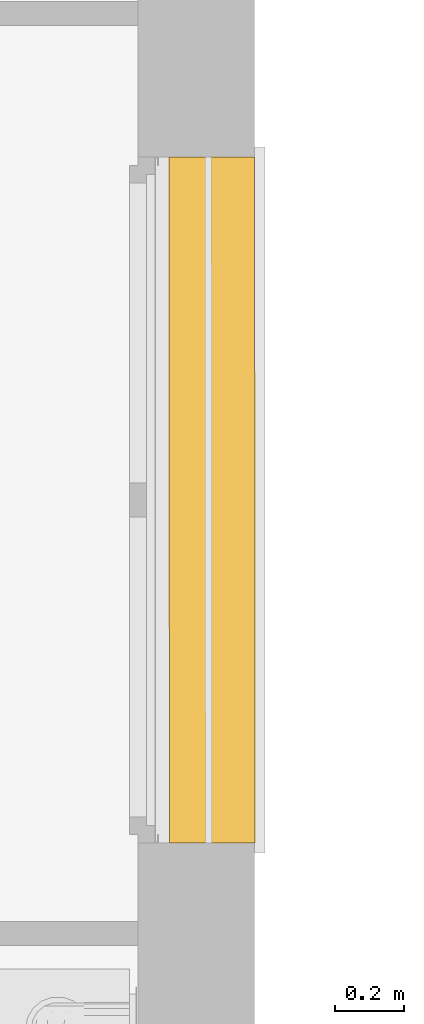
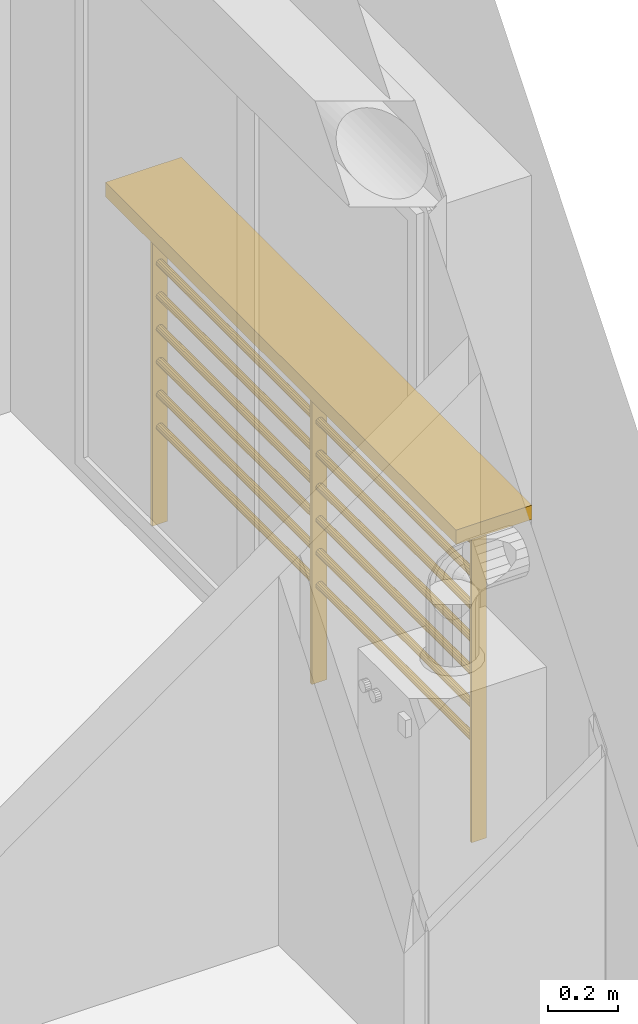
# One storey, part 94 of 164: 1 railing.
"""IFC2X3 building model written with IfcOpenShell, lengths in millimetres."""

from ifc_helpers import new_model, entity, si_unit, converted_unit, derived_unit, money_unit, direction, frame, origin_with_axes, place, context, subcontext, project, spatial, faceted_brep, source, transform, mapped, type_object, element, save


model = new_model("IFC2X3")

# Units and contexts
model_context = context("Model", 3, precision=0.01, world=origin_with_axes(), true_north=direction((0.0, 1.0)))
body_context = subcontext(model_context, "Body", "Model", "MODEL_VIEW")
ifc_project = project(units=[si_unit("LENGTHUNIT", "METRE", prefix="MILLI"), si_unit("AREAUNIT", "SQUARE_METRE"), si_unit("VOLUMEUNIT", "CUBIC_METRE"), converted_unit("PLANEANGLEUNIT", "DEGREE", entity("IfcPlaneAngleMeasure", 0.0174532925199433), si_unit("PLANEANGLEUNIT", "RADIAN"), dimensions=[0, 0, 0, 0, 0, 0, 0]), money_unit("USD"), converted_unit("TIMEUNIT", "Year", entity("IfcTimeMeasure", 31557600.0), si_unit("TIMEUNIT", "SECOND"), dimensions=[0, 0, 1, 0, 0, 0, 0]), si_unit("MASSUNIT", "GRAM", prefix="KILO"), si_unit("THERMODYNAMICTEMPERATUREUNIT", "DEGREE_CELSIUS"), si_unit("LUMINOUSINTENSITYUNIT", "LUMEN"), si_unit("ENERGYUNIT", "JOULE", prefix="MEGA"), derived_unit("THERMALCONDUCTANCEUNIT", [(si_unit("POWERUNIT", "WATT"), 1), (si_unit("LENGTHUNIT", "METRE"), -1), (si_unit("THERMODYNAMICTEMPERATUREUNIT", "KELVIN"), -1)]), derived_unit("SPECIFICHEATCAPACITYUNIT", [(si_unit("ENERGYUNIT", "JOULE"), 1), (si_unit("MASSUNIT", "GRAM", prefix="KILO"), -1), (si_unit("THERMODYNAMICTEMPERATUREUNIT", "KELVIN"), -1)]), derived_unit("MASSDENSITYUNIT", [(si_unit("MASSUNIT", "GRAM", prefix="KILO"), 1), (si_unit("VOLUMEUNIT", "CUBIC_METRE"), -1)])], contexts=[model_context])

# Site, building, storey
site_placement = place(None, origin_with_axes())
site = spatial("IfcSite", under=ifc_project, at=site_placement, Name="Site", CompositionType="ELEMENT")
building_placement = place(site_placement, origin_with_axes())
building = spatial("IfcBuilding", under=site, at=building_placement, Name="Bâtiment", CompositionType="ELEMENT")
storey_placement = place(building_placement, frame((0.0, 0.0, 5750.0), z_axis=(0.0, 0.0, 1.0), x_axis=(1.0, 0.0, 0.0)))
storey = spatial("IfcBuildingStorey", under=building, at=storey_placement, Name="Etage1", CompositionType="ELEMENT", Elevation=5750.0)

# Railing
railing_type = type_object("IfcRailingType", Name="Cadre avec câble 01 20", PredefinedType="NOTDEFINED")
shared_shape = source(origin_with_axes(), body_context, "Body", "Brep", [
    faceted_brep([(0.0, 125.0, 950.0), (0.0, 125.0, 1000.0), (0.0, -125.0, 1000.0), (0.0, -125.0, 950.0), (-1999.999999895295, 125.0, 950.0), (-1999.999999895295, 125.0, 1000.0), (-1999.999999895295, -125.0, 1000.0), (-1999.999999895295, -125.0, 950.0)], [[[0, 1, 2, 3]], [[4, 5, 1, 0]], [[1, 5, 6, 2]], [[3, 2, 6, 7]], [[0, 3, 7, 4]], [[7, 6, 5, 4]]]),
    faceted_brep([(-84.99999999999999, -25.0, -176.0), (-84.99999999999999, -25.0, 950.0), (-95.0, -25.0, 950.0), (-95.0, -25.0, -176.0), (-84.99999999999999, 25.0, -176.0), (-84.99999999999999, 25.0, 950.0), (-95.0, 25.0, 950.0), (-95.0, 25.0, -176.0)], [[[0, 1, 2, 3]], [[4, 5, 1, 0]], [[1, 5, 6, 2]], [[3, 2, 6, 7]], [[0, 3, 7, 4]], [[7, 6, 5, 4]]]),
    faceted_brep([(-994.9999999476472, -25.0, -176.0), (-994.9999999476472, -25.0, 950.0), (-1004.999999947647, -25.0, 950.0), (-1004.999999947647, -25.0, -176.0), (-994.9999999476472, 25.0, -176.0), (-994.9999999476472, 25.0, 950.0), (-1004.999999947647, 25.0, 950.0), (-1004.999999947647, 25.0, -176.0)], [[[0, 1, 2, 3]], [[4, 5, 1, 0]], [[1, 5, 6, 2]], [[3, 2, 6, 7]], [[0, 3, 7, 4]], [[7, 6, 5, 4]]]),
    faceted_brep([(-1904.999999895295, -25.0, -176.0), (-1904.999999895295, -25.0, 950.0), (-1914.999999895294, -25.0, 950.0), (-1914.999999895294, -25.0, -176.0), (-1904.999999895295, 25.0, -176.0), (-1904.999999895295, 25.0, 950.0), (-1914.999999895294, 25.0, 950.0), (-1914.999999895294, 25.0, -176.0)], [[[0, 1, 2, 3]], [[4, 5, 1, 0]], [[1, 5, 6, 2]], [[3, 2, 6, 7]], [[0, 3, 7, 4]], [[7, 6, 5, 4]]]),
    faceted_brep([(-994.9999999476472, 10.82531754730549, 168.7500000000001), (-95.0, 10.82531754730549, 168.75), (-95.0, 12.5, 162.5), (-994.9999999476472, 12.5, 162.5000000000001), (-994.9999999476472, 6.250000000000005, 173.3253175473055), (-95.0, 6.250000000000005, 173.3253175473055), (-95.0, 0.0, 175.0), (-95.0, -6.249999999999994, 173.3253175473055), (-95.0, -10.82531754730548, 168.75), (-95.0, -12.5, 162.5), (-95.0, -10.82531754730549, 156.25), (-95.0, -6.250000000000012, 151.6746824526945), (-95.0, 0.0, 150.0), (-95.0, 6.249999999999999, 151.6746824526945), (-95.0, 10.82531754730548, 156.25), (-994.9999999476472, 10.82531754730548, 156.2500000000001), (-994.9999999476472, 6.249999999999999, 151.6746824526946), (-994.9999999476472, 0.0, 150.0000000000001), (-994.9999999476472, -6.250000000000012, 151.6746824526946), (-994.9999999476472, -10.82531754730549, 156.2500000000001), (-994.9999999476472, -12.5, 162.5000000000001), (-994.9999999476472, -10.82531754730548, 168.7500000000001), (-994.9999999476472, -6.249999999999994, 173.3253175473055), (-994.9999999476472, 0.0, 175.0000000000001)], [[[0, 1, 2, 3]], [[4, 5, 1, 0]], [[1, 5, 6, 7, 8, 9, 10, 11, 12, 13, 14, 2]], [[3, 2, 14, 15]], [[15, 16, 17, 18, 19, 20, 21, 22, 23, 4, 0, 3]], [[23, 6, 5, 4]], [[22, 7, 6, 23]], [[21, 8, 7, 22]], [[20, 9, 8, 21]], [[19, 10, 9, 20]], [[18, 11, 10, 19]], [[17, 12, 11, 18]], [[16, 13, 12, 17]], [[15, 14, 13, 16]]]),
    faceted_brep([(-1004.999999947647, 10.82531754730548, 156.2500000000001), (-1904.999999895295, 10.82531754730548, 156.2500000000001), (-1904.999999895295, 12.5, 162.5000000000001), (-1004.999999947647, 12.5, 162.5000000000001), (-1004.999999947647, 6.249999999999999, 151.6746824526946), (-1904.999999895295, 6.249999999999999, 151.6746824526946), (-1904.999999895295, 0.0, 150.0000000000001), (-1904.999999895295, -6.250000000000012, 151.6746824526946), (-1904.999999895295, -10.82531754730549, 156.2500000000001), (-1904.999999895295, -12.5, 162.5000000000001), (-1904.999999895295, -10.82531754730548, 168.7500000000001), (-1904.999999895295, -6.249999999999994, 173.3253175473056), (-1904.999999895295, 0.0, 175.0000000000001), (-1904.999999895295, 6.250000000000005, 173.3253175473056), (-1904.999999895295, 10.82531754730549, 168.7500000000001), (-1004.999999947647, 10.82531754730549, 168.7500000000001), (-1004.999999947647, 6.250000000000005, 173.3253175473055), (-1004.999999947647, 0.0, 175.0000000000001), (-1004.999999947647, -6.249999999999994, 173.3253175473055), (-1004.999999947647, -10.82531754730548, 168.7500000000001), (-1004.999999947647, -12.5, 162.5000000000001), (-1004.999999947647, -10.82531754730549, 156.2500000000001), (-1004.999999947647, -6.250000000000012, 151.6746824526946), (-1004.999999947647, 0.0, 150.0000000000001)], [[[0, 1, 2, 3]], [[4, 5, 1, 0]], [[1, 5, 6, 7, 8, 9, 10, 11, 12, 13, 14, 2]], [[3, 2, 14, 15]], [[15, 16, 17, 18, 19, 20, 21, 22, 23, 4, 0, 3]], [[23, 6, 5, 4]], [[22, 7, 6, 23]], [[21, 8, 7, 22]], [[20, 9, 8, 21]], [[19, 10, 9, 20]], [[18, 11, 10, 19]], [[17, 12, 11, 18]], [[16, 13, 12, 17]], [[15, 14, 13, 16]]]),
    faceted_brep([(-994.9999999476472, 10.82531754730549, 283.0357142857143), (-95.0, 10.82531754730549, 283.0357142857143), (-95.0, 12.5, 276.7857142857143), (-994.9999999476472, 12.5, 276.7857142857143), (-994.9999999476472, 6.250000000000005, 287.6110318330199), (-95.0, 6.250000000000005, 287.6110318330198), (-95.0, 0.0, 289.2857142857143), (-95.0, -6.249999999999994, 287.6110318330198), (-95.0, -10.82531754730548, 283.0357142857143), (-95.0, -12.5, 276.7857142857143), (-95.0, -10.82531754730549, 270.5357142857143), (-95.0, -6.250000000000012, 265.9603967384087), (-95.0, 0.0, 264.2857142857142), (-95.0, 6.249999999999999, 265.9603967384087), (-95.0, 10.82531754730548, 270.5357142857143), (-994.9999999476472, 10.82531754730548, 270.5357142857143), (-994.9999999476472, 6.249999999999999, 265.9603967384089), (-994.9999999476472, 0.0, 264.2857142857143), (-994.9999999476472, -6.250000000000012, 265.9603967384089), (-994.9999999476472, -10.82531754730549, 270.5357142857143), (-994.9999999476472, -12.5, 276.7857142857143), (-994.9999999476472, -10.82531754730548, 283.0357142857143), (-994.9999999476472, -6.249999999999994, 287.6110318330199), (-994.9999999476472, 0.0, 289.2857142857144)], [[[0, 1, 2, 3]], [[4, 5, 1, 0]], [[1, 5, 6, 7, 8, 9, 10, 11, 12, 13, 14, 2]], [[3, 2, 14, 15]], [[15, 16, 17, 18, 19, 20, 21, 22, 23, 4, 0, 3]], [[23, 6, 5, 4]], [[22, 7, 6, 23]], [[21, 8, 7, 22]], [[20, 9, 8, 21]], [[19, 10, 9, 20]], [[18, 11, 10, 19]], [[17, 12, 11, 18]], [[16, 13, 12, 17]], [[15, 14, 13, 16]]]),
    faceted_brep([(-1004.999999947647, 10.82531754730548, 270.5357142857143), (-1904.999999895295, 10.82531754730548, 270.5357142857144), (-1904.999999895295, 12.5, 276.7857142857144), (-1004.999999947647, 12.5, 276.7857142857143), (-1004.999999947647, 6.249999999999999, 265.9603967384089), (-1904.999999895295, 6.249999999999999, 265.9603967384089), (-1904.999999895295, 0.0, 264.2857142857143), (-1904.999999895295, -6.250000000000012, 265.9603967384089), (-1904.999999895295, -10.82531754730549, 270.5357142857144), (-1904.999999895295, -12.5, 276.7857142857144), (-1904.999999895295, -10.82531754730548, 283.0357142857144), (-1904.999999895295, -6.249999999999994, 287.6110318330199), (-1904.999999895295, 0.0, 289.2857142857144), (-1904.999999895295, 6.250000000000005, 287.6110318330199), (-1904.999999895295, 10.82531754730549, 283.0357142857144), (-1004.999999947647, 10.82531754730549, 283.0357142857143), (-1004.999999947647, 6.250000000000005, 287.6110318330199), (-1004.999999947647, 0.0, 289.2857142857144), (-1004.999999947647, -6.249999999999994, 287.6110318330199), (-1004.999999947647, -10.82531754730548, 283.0357142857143), (-1004.999999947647, -12.5, 276.7857142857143), (-1004.999999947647, -10.82531754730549, 270.5357142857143), (-1004.999999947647, -6.250000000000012, 265.9603967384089), (-1004.999999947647, 0.0, 264.2857142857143)], [[[0, 1, 2, 3]], [[4, 5, 1, 0]], [[1, 5, 6, 7, 8, 9, 10, 11, 12, 13, 14, 2]], [[3, 2, 14, 15]], [[15, 16, 17, 18, 19, 20, 21, 22, 23, 4, 0, 3]], [[23, 6, 5, 4]], [[22, 7, 6, 23]], [[21, 8, 7, 22]], [[20, 9, 8, 21]], [[19, 10, 9, 20]], [[18, 11, 10, 19]], [[17, 12, 11, 18]], [[16, 13, 12, 17]], [[15, 14, 13, 16]]]),
    faceted_brep([(-994.9999999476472, 10.82531754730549, 397.3214285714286), (-95.0, 10.82531754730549, 397.3214285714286), (-95.0, 12.5, 391.0714285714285), (-994.9999999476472, 12.5, 391.0714285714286), (-994.9999999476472, 6.250000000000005, 401.896746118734), (-95.0, 6.250000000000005, 401.896746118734), (-95.0, 0.0, 403.5714285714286), (-95.0, -6.249999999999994, 401.896746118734), (-95.0, -10.82531754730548, 397.3214285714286), (-95.0, -12.5, 391.0714285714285), (-95.0, -10.82531754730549, 384.8214285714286), (-95.0, -6.250000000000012, 380.2461110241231), (-95.0, 0.0, 378.5714285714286), (-95.0, 6.249999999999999, 380.2461110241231), (-95.0, 10.82531754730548, 384.8214285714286), (-994.9999999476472, 10.82531754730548, 384.8214285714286), (-994.9999999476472, 6.249999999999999, 380.2461110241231), (-994.9999999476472, 0.0, 378.5714285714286), (-994.9999999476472, -6.250000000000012, 380.2461110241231), (-994.9999999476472, -10.82531754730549, 384.8214285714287), (-994.9999999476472, -12.5, 391.0714285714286), (-994.9999999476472, -10.82531754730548, 397.3214285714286), (-994.9999999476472, -6.249999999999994, 401.896746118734), (-994.9999999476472, 0.0, 403.5714285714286)], [[[0, 1, 2, 3]], [[4, 5, 1, 0]], [[1, 5, 6, 7, 8, 9, 10, 11, 12, 13, 14, 2]], [[3, 2, 14, 15]], [[15, 16, 17, 18, 19, 20, 21, 22, 23, 4, 0, 3]], [[23, 6, 5, 4]], [[22, 7, 6, 23]], [[21, 8, 7, 22]], [[20, 9, 8, 21]], [[19, 10, 9, 20]], [[18, 11, 10, 19]], [[17, 12, 11, 18]], [[16, 13, 12, 17]], [[15, 14, 13, 16]]]),
    faceted_brep([(-1004.999999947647, 10.82531754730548, 384.8214285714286), (-1904.999999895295, 10.82531754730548, 384.8214285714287), (-1904.999999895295, 12.5, 391.0714285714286), (-1004.999999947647, 12.5, 391.0714285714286), (-1004.999999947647, 6.249999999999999, 380.2461110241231), (-1904.999999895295, 6.249999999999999, 380.2461110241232), (-1904.999999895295, 0.0, 378.5714285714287), (-1904.999999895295, -6.250000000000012, 380.2461110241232), (-1904.999999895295, -10.82531754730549, 384.8214285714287), (-1904.999999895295, -12.5, 391.0714285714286), (-1904.999999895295, -10.82531754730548, 397.3214285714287), (-1904.999999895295, -6.249999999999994, 401.8967461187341), (-1904.999999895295, 0.0, 403.5714285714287), (-1904.999999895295, 6.250000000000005, 401.8967461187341), (-1904.999999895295, 10.82531754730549, 397.3214285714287), (-1004.999999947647, 10.82531754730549, 397.3214285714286), (-1004.999999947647, 6.250000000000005, 401.896746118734), (-1004.999999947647, 0.0, 403.5714285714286), (-1004.999999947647, -6.249999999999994, 401.896746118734), (-1004.999999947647, -10.82531754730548, 397.3214285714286), (-1004.999999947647, -12.5, 391.0714285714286), (-1004.999999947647, -10.82531754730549, 384.8214285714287), (-1004.999999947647, -6.250000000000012, 380.2461110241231), (-1004.999999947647, 0.0, 378.5714285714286)], [[[0, 1, 2, 3]], [[4, 5, 1, 0]], [[1, 5, 6, 7, 8, 9, 10, 11, 12, 13, 14, 2]], [[3, 2, 14, 15]], [[15, 16, 17, 18, 19, 20, 21, 22, 23, 4, 0, 3]], [[23, 6, 5, 4]], [[22, 7, 6, 23]], [[21, 8, 7, 22]], [[20, 9, 8, 21]], [[19, 10, 9, 20]], [[18, 11, 10, 19]], [[17, 12, 11, 18]], [[16, 13, 12, 17]], [[15, 14, 13, 16]]]),
    faceted_brep([(-994.9999999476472, 10.82531754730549, 511.6071428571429), (-95.0, 10.82531754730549, 511.6071428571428), (-95.0, 12.5, 505.3571428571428), (-994.9999999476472, 12.5, 505.3571428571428), (-994.9999999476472, 6.250000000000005, 516.1824604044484), (-95.0, 6.250000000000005, 516.1824604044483), (-95.0, 0.0, 517.8571428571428), (-95.0, -6.249999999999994, 516.1824604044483), (-95.0, -10.82531754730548, 511.6071428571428), (-95.0, -12.5, 505.3571428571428), (-95.0, -10.82531754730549, 499.1071428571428), (-95.0, -6.250000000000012, 494.5318253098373), (-95.0, 0.0, 492.8571428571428), (-95.0, 6.249999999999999, 494.5318253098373), (-95.0, 10.82531754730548, 499.1071428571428), (-994.9999999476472, 10.82531754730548, 499.1071428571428), (-994.9999999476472, 6.249999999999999, 494.5318253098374), (-994.9999999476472, 0.0, 492.8571428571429), (-994.9999999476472, -6.250000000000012, 494.5318253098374), (-994.9999999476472, -10.82531754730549, 499.1071428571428), (-994.9999999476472, -12.5, 505.3571428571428), (-994.9999999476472, -10.82531754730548, 511.6071428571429), (-994.9999999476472, -6.249999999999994, 516.1824604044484), (-994.9999999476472, 0.0, 517.8571428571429)], [[[0, 1, 2, 3]], [[4, 5, 1, 0]], [[1, 5, 6, 7, 8, 9, 10, 11, 12, 13, 14, 2]], [[3, 2, 14, 15]], [[15, 16, 17, 18, 19, 20, 21, 22, 23, 4, 0, 3]], [[23, 6, 5, 4]], [[22, 7, 6, 23]], [[21, 8, 7, 22]], [[20, 9, 8, 21]], [[19, 10, 9, 20]], [[18, 11, 10, 19]], [[17, 12, 11, 18]], [[16, 13, 12, 17]], [[15, 14, 13, 16]]]),
    faceted_brep([(-1004.999999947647, 10.82531754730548, 499.1071428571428), (-1904.999999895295, 10.82531754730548, 499.1071428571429), (-1904.999999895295, 12.5, 505.3571428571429), (-1004.999999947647, 12.5, 505.3571428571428), (-1004.999999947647, 6.249999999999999, 494.5318253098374), (-1904.999999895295, 6.249999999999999, 494.5318253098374), (-1904.999999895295, 0.0, 492.8571428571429), (-1904.999999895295, -6.250000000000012, 494.5318253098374), (-1904.999999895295, -10.82531754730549, 499.1071428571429), (-1904.999999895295, -12.5, 505.3571428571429), (-1904.999999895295, -10.82531754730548, 511.6071428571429), (-1904.999999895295, -6.249999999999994, 516.1824604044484), (-1904.999999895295, 0.0, 517.8571428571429), (-1904.999999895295, 6.250000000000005, 516.1824604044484), (-1904.999999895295, 10.82531754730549, 511.6071428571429), (-1004.999999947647, 10.82531754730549, 511.6071428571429), (-1004.999999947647, 6.250000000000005, 516.1824604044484), (-1004.999999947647, 0.0, 517.8571428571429), (-1004.999999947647, -6.249999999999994, 516.1824604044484), (-1004.999999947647, -10.82531754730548, 511.6071428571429), (-1004.999999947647, -12.5, 505.3571428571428), (-1004.999999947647, -10.82531754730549, 499.1071428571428), (-1004.999999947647, -6.250000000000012, 494.5318253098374), (-1004.999999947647, 0.0, 492.8571428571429)], [[[0, 1, 2, 3]], [[4, 5, 1, 0]], [[1, 5, 6, 7, 8, 9, 10, 11, 12, 13, 14, 2]], [[3, 2, 14, 15]], [[15, 16, 17, 18, 19, 20, 21, 22, 23, 4, 0, 3]], [[23, 6, 5, 4]], [[22, 7, 6, 23]], [[21, 8, 7, 22]], [[20, 9, 8, 21]], [[19, 10, 9, 20]], [[18, 11, 10, 19]], [[17, 12, 11, 18]], [[16, 13, 12, 17]], [[15, 14, 13, 16]]]),
    faceted_brep([(-994.9999999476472, 10.82531754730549, 625.8928571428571), (-95.0, 10.82531754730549, 625.892857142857), (-95.0, 12.5, 619.642857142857), (-994.9999999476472, 12.5, 619.6428571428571), (-994.9999999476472, 6.250000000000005, 630.4681746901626), (-95.0, 6.250000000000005, 630.4681746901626), (-95.0, 0.0, 632.1428571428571), (-95.0, -6.249999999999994, 630.4681746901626), (-95.0, -10.82531754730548, 625.892857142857), (-95.0, -12.5, 619.642857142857), (-95.0, -10.82531754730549, 613.3928571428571), (-95.0, -6.250000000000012, 608.8175395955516), (-95.0, 0.0, 607.1428571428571), (-95.0, 6.249999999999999, 608.8175395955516), (-95.0, 10.82531754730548, 613.3928571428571), (-994.9999999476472, 10.82531754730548, 613.3928571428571), (-994.9999999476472, 6.249999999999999, 608.8175395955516), (-994.9999999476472, 0.0, 607.1428571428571), (-994.9999999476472, -6.250000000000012, 608.8175395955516), (-994.9999999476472, -10.82531754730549, 613.3928571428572), (-994.9999999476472, -12.5, 619.6428571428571), (-994.9999999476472, -10.82531754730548, 625.8928571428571), (-994.9999999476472, -6.249999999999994, 630.4681746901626), (-994.9999999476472, 0.0, 632.1428571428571)], [[[0, 1, 2, 3]], [[4, 5, 1, 0]], [[1, 5, 6, 7, 8, 9, 10, 11, 12, 13, 14, 2]], [[3, 2, 14, 15]], [[15, 16, 17, 18, 19, 20, 21, 22, 23, 4, 0, 3]], [[23, 6, 5, 4]], [[22, 7, 6, 23]], [[21, 8, 7, 22]], [[20, 9, 8, 21]], [[19, 10, 9, 20]], [[18, 11, 10, 19]], [[17, 12, 11, 18]], [[16, 13, 12, 17]], [[15, 14, 13, 16]]]),
    faceted_brep([(-1004.999999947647, 10.82531754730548, 613.3928571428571), (-1904.999999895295, 10.82531754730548, 613.3928571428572), (-1904.999999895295, 12.5, 619.6428571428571), (-1004.999999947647, 12.5, 619.6428571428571), (-1004.999999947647, 6.249999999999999, 608.8175395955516), (-1904.999999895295, 6.249999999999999, 608.8175395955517), (-1904.999999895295, 0.0, 607.1428571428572), (-1904.999999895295, -6.250000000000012, 608.8175395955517), (-1904.999999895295, -10.82531754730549, 613.3928571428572), (-1904.999999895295, -12.5, 619.6428571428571), (-1904.999999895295, -10.82531754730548, 625.8928571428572), (-1904.999999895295, -6.249999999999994, 630.4681746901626), (-1904.999999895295, 0.0, 632.1428571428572), (-1904.999999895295, 6.250000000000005, 630.4681746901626), (-1904.999999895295, 10.82531754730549, 625.8928571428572), (-1004.999999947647, 10.82531754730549, 625.8928571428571), (-1004.999999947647, 6.250000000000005, 630.4681746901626), (-1004.999999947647, 0.0, 632.1428571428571), (-1004.999999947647, -6.249999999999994, 630.4681746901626), (-1004.999999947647, -10.82531754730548, 625.8928571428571), (-1004.999999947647, -12.5, 619.6428571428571), (-1004.999999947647, -10.82531754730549, 613.3928571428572), (-1004.999999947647, -6.250000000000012, 608.8175395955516), (-1004.999999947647, 0.0, 607.1428571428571)], [[[0, 1, 2, 3]], [[4, 5, 1, 0]], [[1, 5, 6, 7, 8, 9, 10, 11, 12, 13, 14, 2]], [[3, 2, 14, 15]], [[15, 16, 17, 18, 19, 20, 21, 22, 23, 4, 0, 3]], [[23, 6, 5, 4]], [[22, 7, 6, 23]], [[21, 8, 7, 22]], [[20, 9, 8, 21]], [[19, 10, 9, 20]], [[18, 11, 10, 19]], [[17, 12, 11, 18]], [[16, 13, 12, 17]], [[15, 14, 13, 16]]]),
    faceted_brep([(-994.9999999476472, 10.82531754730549, 740.1785714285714), (-95.0, 10.82531754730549, 740.1785714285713), (-95.0, 12.5, 733.9285714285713), (-994.9999999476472, 12.5, 733.9285714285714), (-994.9999999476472, 6.250000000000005, 744.7538889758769), (-95.0, 6.250000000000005, 744.7538889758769), (-95.0, 0.0, 746.4285714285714), (-95.0, -6.249999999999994, 744.7538889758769), (-95.0, -10.82531754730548, 740.1785714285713), (-95.0, -12.5, 733.9285714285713), (-95.0, -10.82531754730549, 727.6785714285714), (-95.0, -6.250000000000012, 723.1032538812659), (-95.0, 0.0, 721.4285714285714), (-95.0, 6.249999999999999, 723.1032538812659), (-95.0, 10.82531754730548, 727.6785714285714), (-994.9999999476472, 10.82531754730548, 727.6785714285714), (-994.9999999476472, 6.249999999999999, 723.1032538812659), (-994.9999999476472, 0.0, 721.4285714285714), (-994.9999999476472, -6.250000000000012, 723.1032538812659), (-994.9999999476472, -10.82531754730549, 727.6785714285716), (-994.9999999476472, -12.5, 733.9285714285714), (-994.9999999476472, -10.82531754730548, 740.1785714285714), (-994.9999999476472, -6.249999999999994, 744.7538889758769), (-994.9999999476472, 0.0, 746.4285714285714)], [[[0, 1, 2, 3]], [[4, 5, 1, 0]], [[1, 5, 6, 7, 8, 9, 10, 11, 12, 13, 14, 2]], [[3, 2, 14, 15]], [[15, 16, 17, 18, 19, 20, 21, 22, 23, 4, 0, 3]], [[23, 6, 5, 4]], [[22, 7, 6, 23]], [[21, 8, 7, 22]], [[20, 9, 8, 21]], [[19, 10, 9, 20]], [[18, 11, 10, 19]], [[17, 12, 11, 18]], [[16, 13, 12, 17]], [[15, 14, 13, 16]]]),
    faceted_brep([(-1004.999999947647, 10.82531754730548, 727.6785714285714), (-1904.999999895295, 10.82531754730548, 727.6785714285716), (-1904.999999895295, 12.5, 733.9285714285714), (-1004.999999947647, 12.5, 733.9285714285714), (-1004.999999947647, 6.249999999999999, 723.1032538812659), (-1904.999999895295, 6.249999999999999, 723.103253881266), (-1904.999999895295, 0.0, 721.4285714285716), (-1904.999999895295, -6.250000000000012, 723.103253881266), (-1904.999999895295, -10.82531754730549, 727.6785714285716), (-1904.999999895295, -12.5, 733.9285714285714), (-1904.999999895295, -10.82531754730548, 740.1785714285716), (-1904.999999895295, -6.249999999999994, 744.753888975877), (-1904.999999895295, 0.0, 746.4285714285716), (-1904.999999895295, 6.250000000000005, 744.753888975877), (-1904.999999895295, 10.82531754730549, 740.1785714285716), (-1004.999999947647, 10.82531754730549, 740.1785714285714), (-1004.999999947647, 6.250000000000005, 744.7538889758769), (-1004.999999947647, 0.0, 746.4285714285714), (-1004.999999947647, -6.249999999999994, 744.7538889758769), (-1004.999999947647, -10.82531754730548, 740.1785714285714), (-1004.999999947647, -12.5, 733.9285714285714), (-1004.999999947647, -10.82531754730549, 727.6785714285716), (-1004.999999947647, -6.250000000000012, 723.1032538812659), (-1004.999999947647, 0.0, 721.4285714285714)], [[[0, 1, 2, 3]], [[4, 5, 1, 0]], [[1, 5, 6, 7, 8, 9, 10, 11, 12, 13, 14, 2]], [[3, 2, 14, 15]], [[15, 16, 17, 18, 19, 20, 21, 22, 23, 4, 0, 3]], [[23, 6, 5, 4]], [[22, 7, 6, 23]], [[21, 8, 7, 22]], [[20, 9, 8, 21]], [[19, 10, 9, 20]], [[18, 11, 10, 19]], [[17, 12, 11, 18]], [[16, 13, 12, 17]], [[15, 14, 13, 16]]]),
    faceted_brep([(-994.9999999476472, 10.82531754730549, 854.4642857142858), (-95.0, 10.82531754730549, 854.4642857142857), (-95.0, 12.5, 848.2142857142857), (-994.9999999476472, 12.5, 848.2142857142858), (-994.9999999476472, 6.250000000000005, 859.0396032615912), (-95.0, 6.250000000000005, 859.0396032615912), (-95.0, 0.0, 860.7142857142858), (-95.0, -6.249999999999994, 859.0396032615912), (-95.0, -10.82531754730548, 854.4642857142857), (-95.0, -12.5, 848.2142857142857), (-95.0, -10.82531754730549, 841.9642857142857), (-95.0, -6.250000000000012, 837.3889681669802), (-95.0, 0.0, 835.7142857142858), (-95.0, 6.249999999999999, 837.3889681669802), (-95.0, 10.82531754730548, 841.9642857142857), (-994.9999999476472, 10.82531754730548, 841.9642857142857), (-994.9999999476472, 6.249999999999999, 837.3889681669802), (-994.9999999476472, 0.0, 835.7142857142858), (-994.9999999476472, -6.250000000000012, 837.3889681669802), (-994.9999999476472, -10.82531754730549, 841.9642857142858), (-994.9999999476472, -12.5, 848.2142857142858), (-994.9999999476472, -10.82531754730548, 854.4642857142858), (-994.9999999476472, -6.249999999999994, 859.0396032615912), (-994.9999999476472, 0.0, 860.7142857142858)], [[[0, 1, 2, 3]], [[4, 5, 1, 0]], [[1, 5, 6, 7, 8, 9, 10, 11, 12, 13, 14, 2]], [[3, 2, 14, 15]], [[15, 16, 17, 18, 19, 20, 21, 22, 23, 4, 0, 3]], [[23, 6, 5, 4]], [[22, 7, 6, 23]], [[21, 8, 7, 22]], [[20, 9, 8, 21]], [[19, 10, 9, 20]], [[18, 11, 10, 19]], [[17, 12, 11, 18]], [[16, 13, 12, 17]], [[15, 14, 13, 16]]]),
    faceted_brep([(-1004.999999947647, 10.82531754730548, 841.9642857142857), (-1904.999999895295, 10.82531754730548, 841.9642857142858), (-1904.999999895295, 12.5, 848.2142857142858), (-1004.999999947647, 12.5, 848.2142857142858), (-1004.999999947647, 6.249999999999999, 837.3889681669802), (-1904.999999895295, 6.249999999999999, 837.3889681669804), (-1904.999999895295, 0.0, 835.7142857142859), (-1904.999999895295, -6.250000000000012, 837.3889681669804), (-1904.999999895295, -10.82531754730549, 841.9642857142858), (-1904.999999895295, -12.5, 848.2142857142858), (-1904.999999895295, -10.82531754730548, 854.4642857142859), (-1904.999999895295, -6.249999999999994, 859.0396032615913), (-1904.999999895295, 0.0, 860.7142857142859), (-1904.999999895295, 6.250000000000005, 859.0396032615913), (-1904.999999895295, 10.82531754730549, 854.4642857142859), (-1004.999999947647, 10.82531754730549, 854.4642857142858), (-1004.999999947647, 6.250000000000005, 859.0396032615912), (-1004.999999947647, 0.0, 860.7142857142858), (-1004.999999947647, -6.249999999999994, 859.0396032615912), (-1004.999999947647, -10.82531754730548, 854.4642857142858), (-1004.999999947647, -12.5, 848.2142857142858), (-1004.999999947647, -10.82531754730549, 841.9642857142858), (-1004.999999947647, -6.250000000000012, 837.3889681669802), (-1004.999999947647, 0.0, 835.7142857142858)], [[[0, 1, 2, 3]], [[4, 5, 1, 0]], [[1, 5, 6, 7, 8, 9, 10, 11, 12, 13, 14, 2]], [[3, 2, 14, 15]], [[15, 16, 17, 18, 19, 20, 21, 22, 23, 4, 0, 3]], [[23, 6, 5, 4]], [[22, 7, 6, 23]], [[21, 8, 7, 22]], [[20, 9, 8, 21]], [[19, 10, 9, 20]], [[18, 11, 10, 19]], [[17, 12, 11, 18]], [[16, 13, 12, 17]], [[15, 14, 13, 16]]]),
])
railing_placement = place(storey_placement, frame((2234233.265940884, -652113.6292959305, 0.0), z_axis=(0.0, 0.0, 1.0), x_axis=(0.0007973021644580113, -0.9999996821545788, 0.0)))
element("IfcRailing", 1, at=railing_placement, inside=storey, type_object=railing_type, Name="Obj.-002", PredefinedType="NOTDEFINED", context=body_context, shape_type="MappedRepresentation", body=[
    mapped(shared_shape, transform((0.0, 0.0, 0.0))),
])

save(model, "model.ifc")
